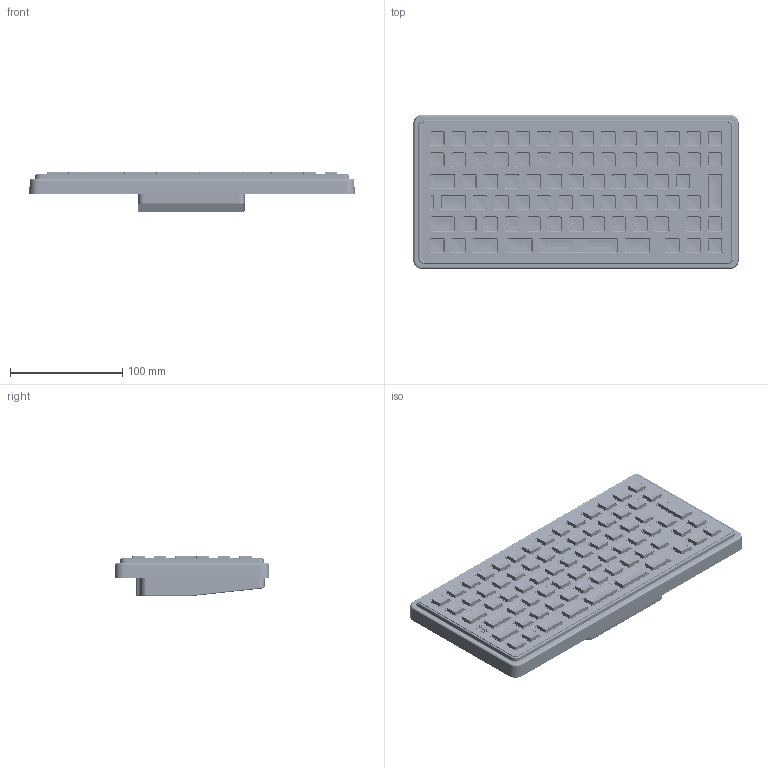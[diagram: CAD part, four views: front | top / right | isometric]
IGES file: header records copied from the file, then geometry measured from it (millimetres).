
Start section: SolidWorks IGES file using analytic representation for surfaces
Global section: file name: C:\Documents and Settings\tracys.STORMINTERFACE\Desktop\website models\Storm_2220_Keyboard_3D_Model~1.IGS; native system: SolidWorks 2006 by SolidWorks Corporation; preprocessor: SolidWorks 2006 by SolidWorks Corporation; author: tracys; date: 051031.100840; units: millimetre
Bounding box: 289.5 x 137.5 x 35.8 mm (x, y, z)
Surface area: 139440.5 mm2 (no closed solid volume)
Topology: 0 solids, 0 shells, 3770 faces, 38700 edges, 38692 vertices
Faces by surface type: bspline 1888, revolution 1882
